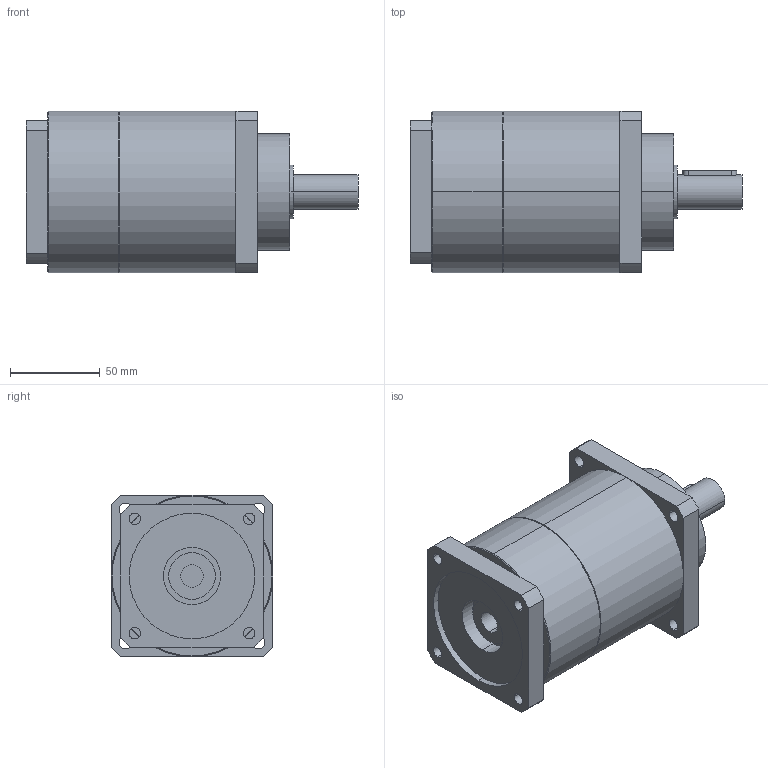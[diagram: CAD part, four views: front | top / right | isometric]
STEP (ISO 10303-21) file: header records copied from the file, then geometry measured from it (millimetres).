
FILE_DESCRIPTION(('CoCreate Modeling STEP Export'),'2;1');
FILE_NAME('GPT90_ig-9-12-16-20-25-28-35-40-50-70-100_19_B5T_12.7_P12.stp','2015-02-04T11:27:29',(''),(''),'CoCreate Modeling STEP processor for AP214 (Solid Model)','CoCreate Modeling 16.00C 25-Feb-2009 (C) Parametric Technology GmbH','');
FILE_SCHEMA(('AUTOMOTIVE_DESIGN { 1 0 10303 214 1 1 1 1 }'));
Length unit declared in the file: millimetre
Products named in the file (2): GPT90_ig-9-12-16-20-25-28-35-40-50-70-100_19_B5T_12.7_P12
Assembly tree (1 placements, depth 2):
  GPT90_ig-9-12-16-20-25-28-35-40-50-70-100_19_B5T_12.7_P12
    GPT90_ig-9-12-16-20-25-28-35-40-50-70-100_19_B5T_12.7_P12
Bounding box: 185 x 90 x 90 mm (x, y, z)
Volume: 885213.4 mm3; surface area: 66244.6 mm2
Topology: 1 solids, 1 shells, 88 faces, 237 edges, 156 vertices
Faces by surface type: cylinder 46, plane 38, cone 4
Entity records: 2783 total; most frequent: CARTESIAN_POINT 766, ORIENTED_EDGE 474, DIRECTION 338, EDGE_CURVE 237, VERTEX_POINT 156, AXIS2_PLACEMENT_3D 125, EDGE_LOOP 109, VECTOR 88
